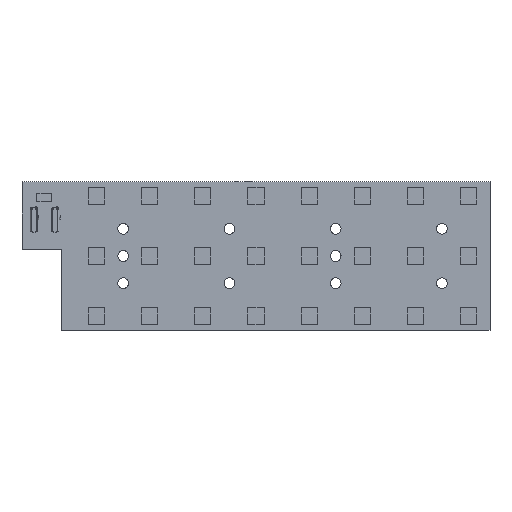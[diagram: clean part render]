
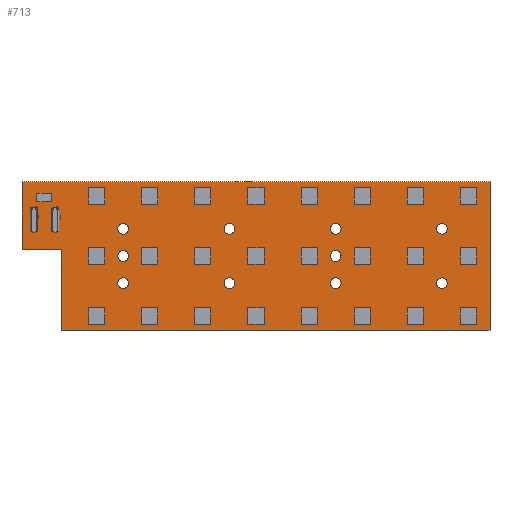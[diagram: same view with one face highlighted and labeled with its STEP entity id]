
A CAD part, top view. The second image highlights one B-rep face of the part: STEP entity #713.
In plain terms, the highlighted planar face has unit normal (0, 0, 1).
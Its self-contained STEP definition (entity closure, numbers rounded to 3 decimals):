
#160 = VERTEX_POINT('',#161);
#161 = CARTESIAN_POINT('',(0.,25.6,1.6));
#167 = EDGE_CURVE('',#160,#168,#170,.T.);
#168 = VERTEX_POINT('',#169);
#169 = CARTESIAN_POINT('',(12.5,25.6,1.6));
#170 = LINE('',#171,#172);
#171 = CARTESIAN_POINT('',(0.,25.6,1.6));
#172 = VECTOR('',#173,1.);
#173 = DIRECTION('',(1.,0.,0.));
#198 = EDGE_CURVE('',#168,#199,#201,.T.);
#199 = VERTEX_POINT('',#200);
#200 = CARTESIAN_POINT('',(12.5,0.,1.6));
#201 = LINE('',#202,#203);
#202 = CARTESIAN_POINT('',(12.5,25.6,1.6));
#203 = VECTOR('',#204,1.);
#204 = DIRECTION('',(0.,-1.,0.));
#229 = EDGE_CURVE('',#199,#230,#232,.T.);
#230 = VERTEX_POINT('',#231);
#231 = CARTESIAN_POINT('',(148.,0.,1.6));
#232 = LINE('',#233,#234);
#233 = CARTESIAN_POINT('',(12.5,0.,1.6));
#234 = VECTOR('',#235,1.);
#235 = DIRECTION('',(1.,0.,0.));
#260 = EDGE_CURVE('',#230,#261,#263,.T.);
#261 = VERTEX_POINT('',#262);
#262 = CARTESIAN_POINT('',(148.,47.,1.6));
#263 = LINE('',#264,#265);
#264 = CARTESIAN_POINT('',(148.,0.,1.6));
#265 = VECTOR('',#266,1.);
#266 = DIRECTION('',(0.,1.,0.));
#291 = EDGE_CURVE('',#261,#292,#294,.T.);
#292 = VERTEX_POINT('',#293);
#293 = CARTESIAN_POINT('',(0.,47.,1.6));
#294 = LINE('',#295,#296);
#295 = CARTESIAN_POINT('',(148.,47.,1.6));
#296 = VECTOR('',#297,1.);
#297 = DIRECTION('',(-1.,0.,0.));
#322 = EDGE_CURVE('',#292,#160,#323,.T.);
#323 = LINE('',#324,#325);
#324 = CARTESIAN_POINT('',(0.,47.,1.6));
#325 = VECTOR('',#326,1.);
#326 = DIRECTION('',(0.,-1.,0.));
#346 = VERTEX_POINT('',#347);
#347 = CARTESIAN_POINT('',(33.7,14.9,1.6));
#353 = EDGE_CURVE('',#346,#346,#354,.T.);
#354 = CIRCLE('',#355,1.7);
#355 = AXIS2_PLACEMENT_3D('',#356,#357,#358);
#356 = CARTESIAN_POINT('',(32.,14.9,1.6));
#357 = DIRECTION('',(0.,0.,1.));
#358 = DIRECTION('',(1.,0.,-0.));
#379 = VERTEX_POINT('',#380);
#380 = CARTESIAN_POINT('',(67.3,14.9,1.6));
#386 = EDGE_CURVE('',#379,#379,#387,.T.);
#387 = CIRCLE('',#388,1.7);
#388 = AXIS2_PLACEMENT_3D('',#389,#390,#391);
#389 = CARTESIAN_POINT('',(65.6,14.9,1.6));
#390 = DIRECTION('',(0.,0.,1.));
#391 = DIRECTION('',(1.,0.,-0.));
#412 = VERTEX_POINT('',#413);
#413 = CARTESIAN_POINT('',(33.7,23.5,1.6));
#419 = EDGE_CURVE('',#412,#412,#420,.T.);
#420 = CIRCLE('',#421,1.7);
#421 = AXIS2_PLACEMENT_3D('',#422,#423,#424);
#422 = CARTESIAN_POINT('',(32.,23.5,1.6));
#423 = DIRECTION('',(0.,0.,1.));
#424 = DIRECTION('',(1.,0.,-0.));
#445 = VERTEX_POINT('',#446);
#446 = CARTESIAN_POINT('',(67.3,32.1,1.6));
#452 = EDGE_CURVE('',#445,#445,#453,.T.);
#453 = CIRCLE('',#454,1.7);
#454 = AXIS2_PLACEMENT_3D('',#455,#456,#457);
#455 = CARTESIAN_POINT('',(65.6,32.1,1.6));
#456 = DIRECTION('',(0.,0.,1.));
#457 = DIRECTION('',(1.,0.,-0.));
#478 = VERTEX_POINT('',#479);
#479 = CARTESIAN_POINT('',(33.7,32.1,1.6));
#485 = EDGE_CURVE('',#478,#478,#486,.T.);
#486 = CIRCLE('',#487,1.7);
#487 = AXIS2_PLACEMENT_3D('',#488,#489,#490);
#488 = CARTESIAN_POINT('',(32.,32.1,1.6));
#489 = DIRECTION('',(0.,0.,1.));
#490 = DIRECTION('',(1.,0.,-0.));
#511 = VERTEX_POINT('',#512);
#512 = CARTESIAN_POINT('',(100.9,14.9,1.6));
#518 = EDGE_CURVE('',#511,#511,#519,.T.);
#519 = CIRCLE('',#520,1.7);
#520 = AXIS2_PLACEMENT_3D('',#521,#522,#523);
#521 = CARTESIAN_POINT('',(99.2,14.9,1.6));
#522 = DIRECTION('',(0.,0.,1.));
#523 = DIRECTION('',(1.,0.,-0.));
#544 = VERTEX_POINT('',#545);
#545 = CARTESIAN_POINT('',(134.5,14.9,1.6));
#551 = EDGE_CURVE('',#544,#544,#552,.T.);
#552 = CIRCLE('',#553,1.7);
#553 = AXIS2_PLACEMENT_3D('',#554,#555,#556);
#554 = CARTESIAN_POINT('',(132.8,14.9,1.6));
#555 = DIRECTION('',(0.,0.,1.));
#556 = DIRECTION('',(1.,0.,-0.));
#577 = VERTEX_POINT('',#578);
#578 = CARTESIAN_POINT('',(100.9,23.5,1.6));
#584 = EDGE_CURVE('',#577,#577,#585,.T.);
#585 = CIRCLE('',#586,1.7);
#586 = AXIS2_PLACEMENT_3D('',#587,#588,#589);
#587 = CARTESIAN_POINT('',(99.2,23.5,1.6));
#588 = DIRECTION('',(0.,0.,1.));
#589 = DIRECTION('',(1.,0.,-0.));
#610 = VERTEX_POINT('',#611);
#611 = CARTESIAN_POINT('',(134.5,32.1,1.6));
#617 = EDGE_CURVE('',#610,#610,#618,.T.);
#618 = CIRCLE('',#619,1.7);
#619 = AXIS2_PLACEMENT_3D('',#620,#621,#622);
#620 = CARTESIAN_POINT('',(132.8,32.1,1.6));
#621 = DIRECTION('',(0.,0.,1.));
#622 = DIRECTION('',(1.,0.,-0.));
#643 = VERTEX_POINT('',#644);
#644 = CARTESIAN_POINT('',(100.9,32.1,1.6));
#650 = EDGE_CURVE('',#643,#643,#651,.T.);
#651 = CIRCLE('',#652,1.7);
#652 = AXIS2_PLACEMENT_3D('',#653,#654,#655);
#653 = CARTESIAN_POINT('',(99.2,32.1,1.6));
#654 = DIRECTION('',(0.,0.,1.));
#655 = DIRECTION('',(1.,0.,-0.));
#713 = ADVANCED_FACE('',(#714,#722,#725,#728,#731,#734,#737,#740,#743,
    #746,#749),#752,.T.);
#714 = FACE_BOUND('',#715,.T.);
#715 = EDGE_LOOP('',(#716,#717,#718,#719,#720,#721));
#716 = ORIENTED_EDGE('',*,*,#167,.T.);
#717 = ORIENTED_EDGE('',*,*,#198,.T.);
#718 = ORIENTED_EDGE('',*,*,#229,.T.);
#719 = ORIENTED_EDGE('',*,*,#260,.T.);
#720 = ORIENTED_EDGE('',*,*,#291,.T.);
#721 = ORIENTED_EDGE('',*,*,#322,.T.);
#722 = FACE_BOUND('',#723,.T.);
#723 = EDGE_LOOP('',(#724));
#724 = ORIENTED_EDGE('',*,*,#353,.F.);
#725 = FACE_BOUND('',#726,.T.);
#726 = EDGE_LOOP('',(#727));
#727 = ORIENTED_EDGE('',*,*,#386,.F.);
#728 = FACE_BOUND('',#729,.T.);
#729 = EDGE_LOOP('',(#730));
#730 = ORIENTED_EDGE('',*,*,#419,.F.);
#731 = FACE_BOUND('',#732,.T.);
#732 = EDGE_LOOP('',(#733));
#733 = ORIENTED_EDGE('',*,*,#452,.F.);
#734 = FACE_BOUND('',#735,.T.);
#735 = EDGE_LOOP('',(#736));
#736 = ORIENTED_EDGE('',*,*,#485,.F.);
#737 = FACE_BOUND('',#738,.T.);
#738 = EDGE_LOOP('',(#739));
#739 = ORIENTED_EDGE('',*,*,#518,.F.);
#740 = FACE_BOUND('',#741,.T.);
#741 = EDGE_LOOP('',(#742));
#742 = ORIENTED_EDGE('',*,*,#551,.F.);
#743 = FACE_BOUND('',#744,.T.);
#744 = EDGE_LOOP('',(#745));
#745 = ORIENTED_EDGE('',*,*,#584,.F.);
#746 = FACE_BOUND('',#747,.T.);
#747 = EDGE_LOOP('',(#748));
#748 = ORIENTED_EDGE('',*,*,#617,.F.);
#749 = FACE_BOUND('',#750,.T.);
#750 = EDGE_LOOP('',(#751));
#751 = ORIENTED_EDGE('',*,*,#650,.F.);
#752 = PLANE('',#753);
#753 = AXIS2_PLACEMENT_3D('',#754,#755,#756);
#754 = CARTESIAN_POINT('',(74.821,24.321,1.6));
#755 = DIRECTION('',(0.,0.,1.));
#756 = DIRECTION('',(1.,0.,-0.));
